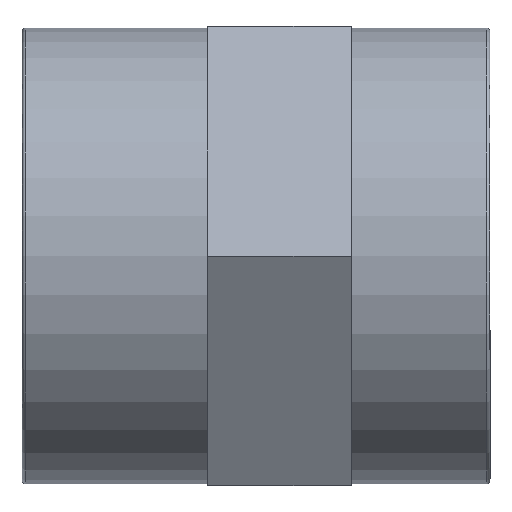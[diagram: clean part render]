
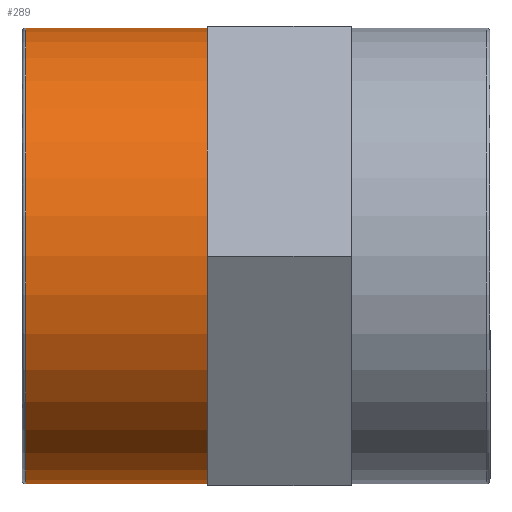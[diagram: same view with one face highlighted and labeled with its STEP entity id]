
A CAD part, top view. The second image highlights one B-rep face of the part: STEP entity #289.
In plain terms, the highlighted cylindrical face has radius 25.319 mm (diameter 50.638 mm), a full revolution.
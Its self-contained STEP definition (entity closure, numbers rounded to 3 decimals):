
#54=CYLINDRICAL_SURFACE('',#323,25.319);
#77=FACE_BOUND('',#123,.T.);
#92=FACE_OUTER_BOUND('',#122,.T.);
#122=EDGE_LOOP('',(#230));
#123=EDGE_LOOP('',(#231));
#150=CIRCLE('',#322,25.319);
#151=CIRCLE('',#324,25.319);
#164=VERTEX_POINT('',#458);
#165=VERTEX_POINT('',#461);
#190=EDGE_CURVE('',#164,#164,#150,.T.);
#191=EDGE_CURVE('',#165,#165,#151,.T.);
#230=ORIENTED_EDGE('',*,*,#191,.T.);
#231=ORIENTED_EDGE('',*,*,#190,.F.);
#289=ADVANCED_FACE('',(#92,#77),#54,.T.);
#322=AXIS2_PLACEMENT_3D('',#459,#378,#379);
#323=AXIS2_PLACEMENT_3D('',#460,#380,#381);
#324=AXIS2_PLACEMENT_3D('',#462,#382,#383);
#378=DIRECTION('center_axis',(-1.,0.,0.));
#379=DIRECTION('ref_axis',(0.,1.,0.));
#380=DIRECTION('center_axis',(-1.,0.,0.));
#381=DIRECTION('ref_axis',(0.,-1.,0.));
#382=DIRECTION('center_axis',(-1.,0.,0.));
#383=DIRECTION('ref_axis',(0.,0.,1.));
#458=CARTESIAN_POINT('',(-25.61,-25.319,0.));
#459=CARTESIAN_POINT('Origin',(-25.61,0.,0.));
#460=CARTESIAN_POINT('Origin',(-15.7,0.,0.));
#461=CARTESIAN_POINT('',(-5.4,-25.319,0.));
#462=CARTESIAN_POINT('Origin',(-5.4,0.,0.));
